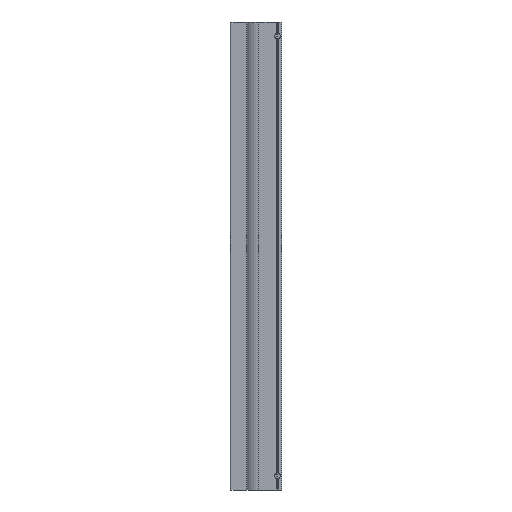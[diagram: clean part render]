
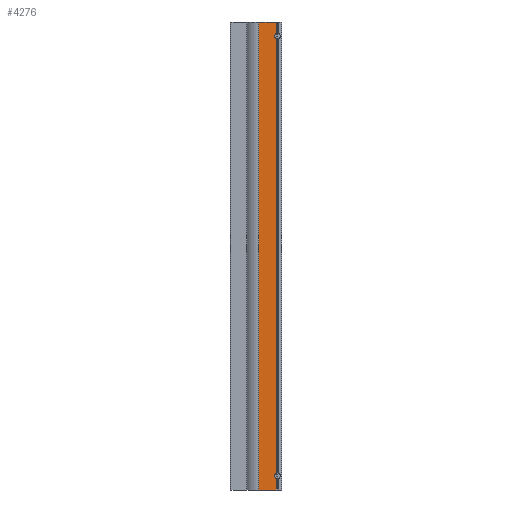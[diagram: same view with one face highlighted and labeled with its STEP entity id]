
A CAD part, left-side view. The second image highlights one B-rep face of the part: STEP entity #4276.
In plain terms, the highlighted planar face has unit normal (-1, 0, 0).
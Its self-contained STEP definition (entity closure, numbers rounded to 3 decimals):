
#69=LINE('',#6683,#261);
#70=LINE('',#6685,#262);
#71=LINE('',#6687,#263);
#72=LINE('',#6689,#264);
#73=LINE('',#6690,#265);
#74=LINE('',#6691,#266);
#261=VECTOR('',#5277,8.197);
#262=VECTOR('',#5278,12.134);
#263=VECTOR('',#5279,327.);
#264=VECTOR('',#5280,12.134);
#265=VECTOR('',#5281,8.197);
#266=VECTOR('',#5282,303.394);
#436=PLANE('',#4608);
#914=FACE_OUTER_BOUND('',#1208,.T.);
#1208=EDGE_LOOP('',(#3105,#3106,#3107,#3108,#3109,#3110,#3111,#3112));
#1761=CIRCLE('',#4570,2.);
#1768=CIRCLE('',#4587,2.);
#2043=VERTEX_POINT('',#6547);
#2047=VERTEX_POINT('',#6555);
#2059=VERTEX_POINT('',#6590);
#2063=VERTEX_POINT('',#6598);
#2089=VERTEX_POINT('',#6682);
#2090=VERTEX_POINT('',#6684);
#2091=VERTEX_POINT('',#6686);
#2092=VERTEX_POINT('',#6688);
#2487=EDGE_CURVE('',#2043,#2047,#1761,.T.);
#2503=EDGE_CURVE('',#2059,#2063,#1768,.T.);
#2540=EDGE_CURVE('',#2047,#2089,#69,.T.);
#2541=EDGE_CURVE('',#2089,#2090,#70,.T.);
#2542=EDGE_CURVE('',#2091,#2090,#71,.T.);
#2543=EDGE_CURVE('',#2091,#2092,#72,.T.);
#2544=EDGE_CURVE('',#2092,#2059,#73,.T.);
#2545=EDGE_CURVE('',#2063,#2043,#74,.T.);
#3105=ORIENTED_EDGE('',*,*,#2487,.T.);
#3106=ORIENTED_EDGE('',*,*,#2540,.T.);
#3107=ORIENTED_EDGE('',*,*,#2541,.T.);
#3108=ORIENTED_EDGE('',*,*,#2542,.F.);
#3109=ORIENTED_EDGE('',*,*,#2543,.T.);
#3110=ORIENTED_EDGE('',*,*,#2544,.T.);
#3111=ORIENTED_EDGE('',*,*,#2503,.T.);
#3112=ORIENTED_EDGE('',*,*,#2545,.T.);
#4276=ADVANCED_FACE('',(#914),#436,.T.);
#4570=AXIS2_PLACEMENT_3D('',#6557,#5174,#5175);
#4587=AXIS2_PLACEMENT_3D('',#6600,#5208,#5209);
#4608=AXIS2_PLACEMENT_3D('',#6681,#5275,#5276);
#5174=DIRECTION('center_axis',(1.,0.,0.));
#5175=DIRECTION('ref_axis',(0.,0.,1.));
#5208=DIRECTION('center_axis',(1.,0.,0.));
#5209=DIRECTION('ref_axis',(0.,0.,1.));
#5275=DIRECTION('center_axis',(-1.,0.,0.));
#5276=DIRECTION('ref_axis',(0.,0.,1.));
#5277=DIRECTION('',(0.,0.,1.));
#5278=DIRECTION('',(0.,1.,0.));
#5279=DIRECTION('',(0.,0.,1.));
#5280=DIRECTION('',(0.,-1.,0.));
#5281=DIRECTION('',(0.,0.,1.));
#5282=DIRECTION('',(0.,0.,1.));
#6547=CARTESIAN_POINT('',(-36.,3.866,151.697));
#6555=CARTESIAN_POINT('',(-36.,3.866,155.303));
#6557=CARTESIAN_POINT('Origin',(-36.,3.,153.5));
#6590=CARTESIAN_POINT('',(-36.,3.866,-155.303));
#6598=CARTESIAN_POINT('',(-36.,3.866,-151.697));
#6600=CARTESIAN_POINT('Origin',(-36.,3.,-153.5));
#6681=CARTESIAN_POINT('Origin',(-36.,3.866,0.));
#6682=CARTESIAN_POINT('',(-36.,3.866,163.5));
#6683=CARTESIAN_POINT('',(-36.,3.866,0.));
#6684=CARTESIAN_POINT('',(-36.,16.,163.5));
#6685=CARTESIAN_POINT('',(-36.,16.,163.5));
#6686=CARTESIAN_POINT('',(-36.,16.,-163.5));
#6687=CARTESIAN_POINT('',(-36.,16.,0.));
#6688=CARTESIAN_POINT('',(-36.,3.866,-163.5));
#6689=CARTESIAN_POINT('',(-36.,16.,-163.5));
#6690=CARTESIAN_POINT('',(-36.,3.866,0.));
#6691=CARTESIAN_POINT('',(-36.,3.866,0.));
